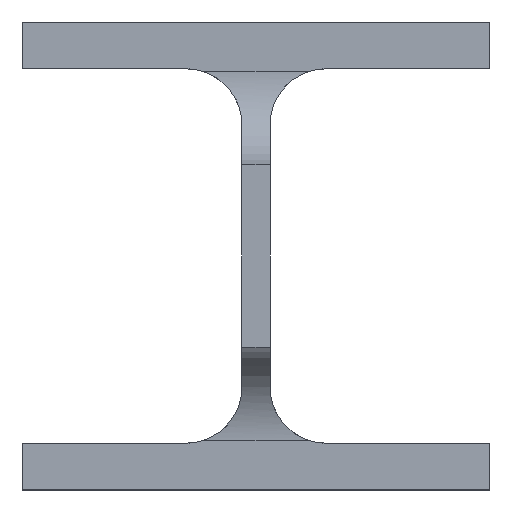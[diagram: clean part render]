
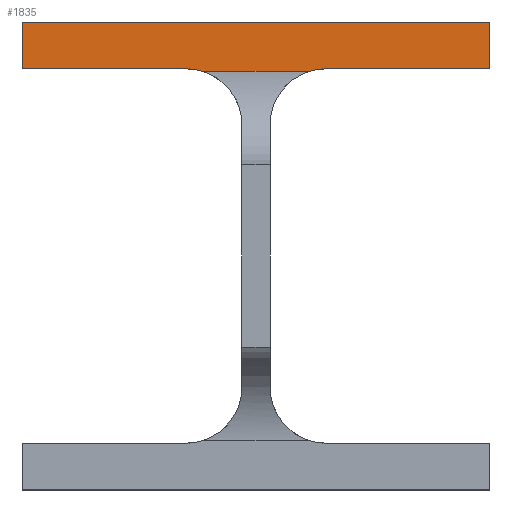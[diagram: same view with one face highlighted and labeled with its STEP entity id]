
A CAD part, front view. The second image highlights one B-rep face of the part: STEP entity #1835.
In plain terms, the highlighted planar face has unit normal (0, -1, 0).
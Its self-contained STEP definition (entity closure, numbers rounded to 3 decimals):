
#9 = CARTESIAN_POINT ( 'NONE',  ( 5235., 2057., 2368. ) ) ;
#61 = CARTESIAN_POINT ( 'NONE',  ( 5200., 2057., 2390. ) ) ;
#109 = EDGE_CURVE ( 'NONE', #4320, #2192, #3073, .T. ) ;
#170 = ORIENTED_EDGE ( 'NONE', *, *, #1220, .F. ) ;
#222 = EDGE_CURVE ( 'NONE', #3491, #867, #900, .T. ) ;
#319 = CARTESIAN_POINT ( 'NONE',  ( 5261.572, 2057., 2379.5 ) ) ;
#328 = LINE ( 'NONE', #1445, #690 ) ;
#348 = CARTESIAN_POINT ( 'NONE',  ( 5200., 2057., 2390. ) ) ;
#407 = AXIS2_PLACEMENT_3D ( 'NONE', #9, #2111, #2480 ) ;
#437 = DIRECTION ( 'NONE',  ( 0., 0., 1. ) ) ;
#613 = CARTESIAN_POINT ( 'NONE',  ( 5200., 2057., 2380. ) ) ;
#690 = VECTOR ( 'NONE', #3079, 1000. ) ;
#758 = VECTOR ( 'NONE', #2991, 1000. ) ;
#779 = VERTEX_POINT ( 'NONE', #2746 ) ;
#863 = DIRECTION ( 'NONE',  ( 0., 0., -1. ) ) ;
#867 = VERTEX_POINT ( 'NONE', #3937 ) ;
#900 = LINE ( 'NONE', #2273, #758 ) ;
#1055 = CARTESIAN_POINT ( 'NONE',  ( 5235., 2057., 2380. ) ) ;
#1123 = EDGE_CURVE ( 'NONE', #3514, #3491, #3970, .T. ) ;
#1187 = ORIENTED_EDGE ( 'NONE', *, *, #1123, .F. ) ;
#1205 = CARTESIAN_POINT ( 'NONE',  ( 5300., 2057., 2380. ) ) ;
#1220 = EDGE_CURVE ( 'NONE', #779, #2595, #4252, .T. ) ;
#1262 = AXIS2_PLACEMENT_3D ( 'NONE', #1292, #4152, #437 ) ;
#1292 = CARTESIAN_POINT ( 'NONE',  ( 5265., 2057., 2368. ) ) ;
#1445 = CARTESIAN_POINT ( 'NONE',  ( 5265., 2057., 2380. ) ) ;
#1465 = ORIENTED_EDGE ( 'NONE', *, *, #2939, .F. ) ;
#1544 = EDGE_CURVE ( 'NONE', #867, #1813, #1550, .T. ) ;
#1550 = CIRCLE ( 'NONE', #407, 12. ) ;
#1576 = EDGE_CURVE ( 'NONE', #2595, #3514, #328, .T. ) ;
#1813 = VERTEX_POINT ( 'NONE', #1055 ) ;
#1835 = ADVANCED_FACE ( 'NONE', ( #3052 ), #4372, .F. ) ;
#1851 = AXIS2_PLACEMENT_3D ( 'NONE', #3373, #3731, #3446 ) ;
#1996 = DIRECTION ( 'NONE',  ( -1., 0., 0. ) ) ;
#2055 = CARTESIAN_POINT ( 'NONE',  ( 6935., 2057., 2390. ) ) ;
#2111 = DIRECTION ( 'NONE',  ( 0., -1., 0. ) ) ;
#2192 = VERTEX_POINT ( 'NONE', #61 ) ;
#2261 = VECTOR ( 'NONE', #4105, 1000. ) ;
#2273 = CARTESIAN_POINT ( 'NONE',  ( 6935., 2057., 2379.5 ) ) ;
#2480 = DIRECTION ( 'NONE',  ( 0., 0., 1. ) ) ;
#2595 = VERTEX_POINT ( 'NONE', #3368 ) ;
#2705 = VECTOR ( 'NONE', #1996, 1000. ) ;
#2746 = CARTESIAN_POINT ( 'NONE',  ( 5300., 2057., 2390. ) ) ;
#2925 = EDGE_LOOP ( 'NONE', ( #3914, #170, #3926, #3350, #1465, #3824, #4296, #1187 ) ) ;
#2939 = EDGE_CURVE ( 'NONE', #1813, #4320, #3000, .T. ) ;
#2991 = DIRECTION ( 'NONE',  ( -1., 0., 0. ) ) ;
#3000 = LINE ( 'NONE', #613, #2705 ) ;
#3052 = FACE_OUTER_BOUND ( 'NONE', #2925, .T. ) ;
#3073 = LINE ( 'NONE', #348, #2261 ) ;
#3079 = DIRECTION ( 'NONE',  ( -1., 0., 0. ) ) ;
#3350 = ORIENTED_EDGE ( 'NONE', *, *, #109, .F. ) ;
#3368 = CARTESIAN_POINT ( 'NONE',  ( 5300., 2057., 2380. ) ) ;
#3373 = CARTESIAN_POINT ( 'NONE',  ( 6935., 2057., 2379.5 ) ) ;
#3446 = DIRECTION ( 'NONE',  ( 0., 0., 1. ) ) ;
#3491 = VERTEX_POINT ( 'NONE', #319 ) ;
#3496 = EDGE_CURVE ( 'NONE', #779, #2192, #4078, .T. ) ;
#3514 = VERTEX_POINT ( 'NONE', #4343 ) ;
#3731 = DIRECTION ( 'NONE',  ( 0., 1., 0. ) ) ;
#3773 = VECTOR ( 'NONE', #3990, 1000. ) ;
#3824 = ORIENTED_EDGE ( 'NONE', *, *, #1544, .F. ) ;
#3914 = ORIENTED_EDGE ( 'NONE', *, *, #1576, .F. ) ;
#3926 = ORIENTED_EDGE ( 'NONE', *, *, #3496, .T. ) ;
#3937 = CARTESIAN_POINT ( 'NONE',  ( 5238.428, 2057., 2379.5 ) ) ;
#3970 = CIRCLE ( 'NONE', #1262, 12. ) ;
#3990 = DIRECTION ( 'NONE',  ( -1., 0., 0. ) ) ;
#4043 = VECTOR ( 'NONE', #863, 1000. ) ;
#4078 = LINE ( 'NONE', #2055, #3773 ) ;
#4105 = DIRECTION ( 'NONE',  ( 0., 0., 1. ) ) ;
#4152 = DIRECTION ( 'NONE',  ( 0., -1., 0. ) ) ;
#4172 = CARTESIAN_POINT ( 'NONE',  ( 5200., 2057., 2380. ) ) ;
#4252 = LINE ( 'NONE', #1205, #4043 ) ;
#4296 = ORIENTED_EDGE ( 'NONE', *, *, #222, .F. ) ;
#4320 = VERTEX_POINT ( 'NONE', #4172 ) ;
#4343 = CARTESIAN_POINT ( 'NONE',  ( 5265., 2057., 2380. ) ) ;
#4372 = PLANE ( 'NONE',  #1851 ) ;
